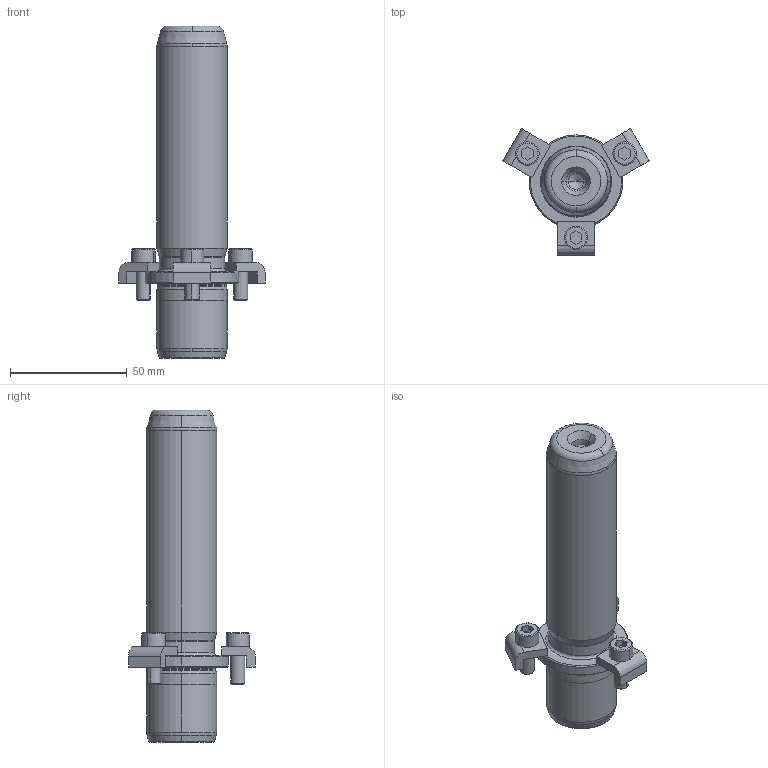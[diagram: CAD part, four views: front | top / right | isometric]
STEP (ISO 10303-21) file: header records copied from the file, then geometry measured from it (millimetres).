
FILE_DESCRIPTION((''),'2;1');
FILE_NAME('P21_030_110.stp','2008-12-23T09:55:08',(''),(''),'Mechanical Desktop 2009','Mechanical Desktop 2009',', , ');
FILE_SCHEMA(('CONFIG_CONTROL_DESIGN'));
Length unit declared in the file: millimetre
Products named in the file (2): Product; blmdl1
Assembly tree (1 placements, depth 2):
  Product
    blmdl1
Bounding box: 62.51 x 54.13 x 142 mm (x, y, z)
Volume: 104382 mm3; surface area: 21315.5 mm2
Topology: 7 solids, 7 shells, 163 faces, 399 edges, 257 vertices
Faces by surface type: plane 59, cylinder 44, cone 32, torus 14, bspline 14
Entity records: 5517 total; most frequent: CARTESIAN_POINT 1433, DIRECTION 908, ORIENTED_EDGE 790, EDGE_CURVE 395, AXIS2_PLACEMENT_3D 362, VERTEX_POINT 257, CIRCLE 211, VECTOR 184
